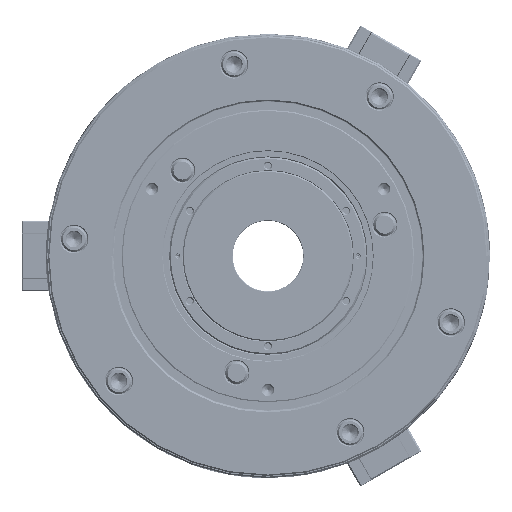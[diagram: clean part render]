
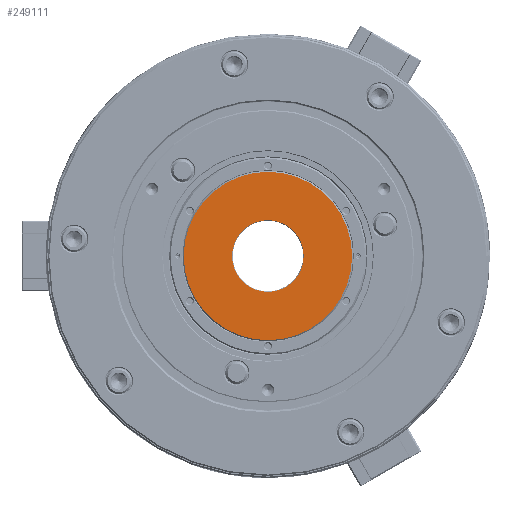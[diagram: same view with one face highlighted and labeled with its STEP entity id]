
A CAD part, left-side view. The second image highlights one B-rep face of the part: STEP entity #249111.
In plain terms, the highlighted planar face has unit normal (-1, 0, 0).
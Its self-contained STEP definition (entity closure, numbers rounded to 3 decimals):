
#1639 = EDGE_CURVE ( 'NONE', #60865, #59365, #176805, .T. ) ;
#3936 = AXIS2_PLACEMENT_3D ( 'NONE', #94781, #171595, #33236 ) ;
#6441 = EDGE_CURVE ( 'NONE', #59365, #60865, #20928, .T. ) ;
#16149 = DIRECTION ( 'NONE',  ( 0., 0., 1. ) ) ;
#20928 = CIRCLE ( 'NONE', #109394, 25.4 ) ;
#23741 = DIRECTION ( 'NONE',  ( -1., 0., 0. ) ) ;
#33236 = DIRECTION ( 'NONE',  ( 0., 0., 1. ) ) ;
#36153 = VERTEX_POINT ( 'NONE', #227460 ) ;
#39228 = FACE_BOUND ( 'NONE', #247363, .T. ) ;
#54683 = CARTESIAN_POINT ( 'NONE',  ( -47., 0., 25.4 ) ) ;
#57473 = ORIENTED_EDGE ( 'NONE', *, *, #185543, .T. ) ;
#59365 = VERTEX_POINT ( 'NONE', #105996 ) ;
#60865 = VERTEX_POINT ( 'NONE', #54683 ) ;
#75730 = DIRECTION ( 'NONE',  ( 0., 0., -1. ) ) ;
#76484 = AXIS2_PLACEMENT_3D ( 'NONE', #248183, #192776, #75730 ) ;
#82896 = CARTESIAN_POINT ( 'NONE',  ( -47., 0., 0. ) ) ;
#84826 = ORIENTED_EDGE ( 'NONE', *, *, #1639, .F. ) ;
#87882 = DIRECTION ( 'NONE',  ( -1., 0., 0. ) ) ;
#94781 = CARTESIAN_POINT ( 'NONE',  ( -47., 0., 0. ) ) ;
#105996 = CARTESIAN_POINT ( 'NONE',  ( -47., 0., -25.4 ) ) ;
#106897 = DIRECTION ( 'NONE',  ( -1., 0., 0. ) ) ;
#108096 = AXIS2_PLACEMENT_3D ( 'NONE', #180203, #87882, #147060 ) ;
#109394 = AXIS2_PLACEMENT_3D ( 'NONE', #164827, #106897, #16149 ) ;
#113545 = FACE_OUTER_BOUND ( 'NONE', #247659, .T. ) ;
#147060 = DIRECTION ( 'NONE',  ( 0., 0., 1. ) ) ;
#164827 = CARTESIAN_POINT ( 'NONE',  ( -47., 0., 0. ) ) ;
#171595 = DIRECTION ( 'NONE',  ( -1., 0., 0. ) ) ;
#176805 = CIRCLE ( 'NONE', #3936, 25.4 ) ;
#180203 = CARTESIAN_POINT ( 'NONE',  ( -47., 0., 0. ) ) ;
#180223 = VERTEX_POINT ( 'NONE', #197851 ) ;
#182600 = CIRCLE ( 'NONE', #206619, 59.7 ) ;
#185543 = EDGE_CURVE ( 'NONE', #36153, #180223, #182600, .T. ) ;
#190313 = PLANE ( 'NONE',  #76484 ) ;
#192776 = DIRECTION ( 'NONE',  ( 1., 0., 0. ) ) ;
#195025 = ORIENTED_EDGE ( 'NONE', *, *, #196663, .T. ) ;
#196663 = EDGE_CURVE ( 'NONE', #180223, #36153, #220595, .T. ) ;
#197851 = CARTESIAN_POINT ( 'NONE',  ( -47., 0., -59.7 ) ) ;
#206619 = AXIS2_PLACEMENT_3D ( 'NONE', #82896, #23741, #240165 ) ;
#210618 = ORIENTED_EDGE ( 'NONE', *, *, #6441, .F. ) ;
#220595 = CIRCLE ( 'NONE', #108096, 59.7 ) ;
#227460 = CARTESIAN_POINT ( 'NONE',  ( -47., 0., 59.7 ) ) ;
#240165 = DIRECTION ( 'NONE',  ( 0., 0., 1. ) ) ;
#247363 = EDGE_LOOP ( 'NONE', ( #84826, #210618 ) ) ;
#247659 = EDGE_LOOP ( 'NONE', ( #195025, #57473 ) ) ;
#248183 = CARTESIAN_POINT ( 'NONE',  ( -47., 59.7, 0. ) ) ;
#249111 = ADVANCED_FACE ( 'NONE', ( #39228, #113545 ), #190313, .F. ) ;
